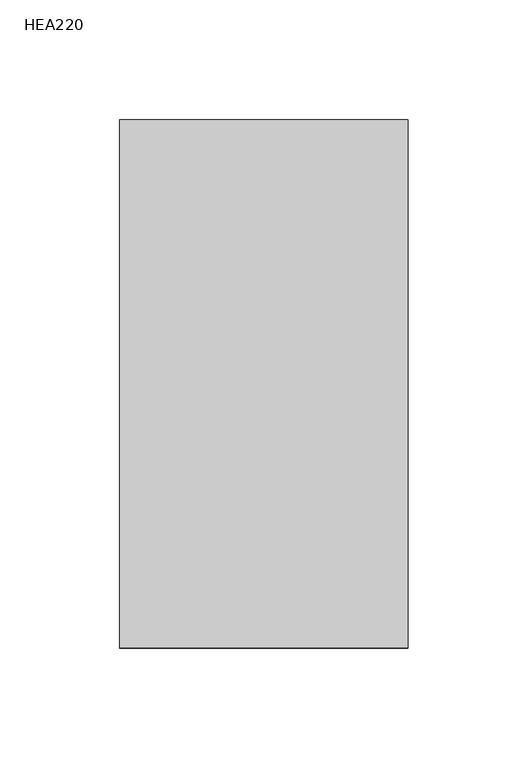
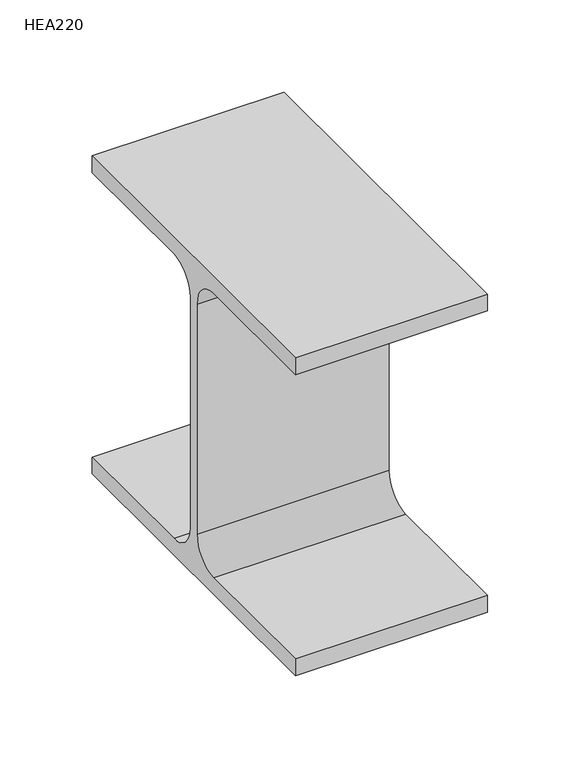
"""IFC4 building model written with IfcOpenShell, lengths in millimetres: beam geometry, HE-A : HEA220."""

from ifc_helpers import new_model, si_unit, point, frame, frame_2d, origin, place, context, project, spatial, polyline, circle_curve, trimmed, segment, composite_curve, outline, extrude, source, transform, mapped, element, save


def hea220_d5b03f22(model_context):
    return source(origin(), model_context, "Body", "SweptSolid", [
        extrude(outline(composite_curve([segment(polyline([(110.0, -94.0), (110.0, -105.0), (-110.0, -105.0), (-110.0, -94.0), (-21.5, -94.0)]), True, "CONTINUOUS"), segment(trimmed(circle_curve(frame_2d((-21.5, -76.0)), 18.0), [point((-21.5, -94.0))], [point((-3.5, -76.0))], True, "CARTESIAN"), True, "CONTINUOUS"), segment(polyline([(-3.5, -76.0), (-3.5, 76.0)]), True, "CONTINUOUS"), segment(trimmed(circle_curve(frame_2d((-21.5, 76.0)), 18.0), [point((-3.5, 76.0))], [point((-21.5, 94.0))], True, "CARTESIAN"), True, "CONTINUOUS"), segment(polyline([(-21.5, 94.0), (-110.0, 94.0), (-110.0, 105.0), (110.0, 105.0), (110.0, 94.0), (21.5, 94.0)]), True, "CONTINUOUS"), segment(trimmed(circle_curve(frame_2d((21.5, 76.0)), 18.0), [point((21.5, 94.0))], [point((3.5, 76.0))], True, "CARTESIAN"), True, "CONTINUOUS"), segment(polyline([(3.5, 76.0), (3.5, -76.0)]), True, "CONTINUOUS"), segment(trimmed(circle_curve(frame_2d((21.5, -76.0)), 18.0), [point((3.5, -76.0))], [point((21.5, -94.0))], True, "CARTESIAN"), True, "CONTINUOUS"), segment(polyline([(21.5, -94.0), (110.0, -94.0)]), True, "CONTINUOUS")], self_intersect=False)), frame((-60.05, 0.0, 0.0), z_axis=(1.0, 0.0, 0.0), x_axis=(0.0, 1.0, 0.0)), (0.0, 0.0, 1.0), 120.1),
    ])


if __name__ == "__main__":
    model = new_model("IFC4")
    model_context = context("Model", 3, world=origin())
    ifc_project = project(units=[si_unit("LENGTHUNIT", "METRE", prefix="MILLI")], contexts=[model_context])
    site = spatial("IfcSite", under=ifc_project)
    building = spatial("IfcBuilding", under=site)
    placement = place(None, origin())
    hea220_shape = hea220_d5b03f22(model_context)
    element("IfcBeam", 1, ObjectType="HE-A : HEA220", at=placement, inside=building, context=model_context, shape_type="MappedRepresentation", body=[
        mapped(hea220_shape, transform((0.0, 0.0, 0.0), x_axis=(1.0, 0.0, 0.0), y_axis=(0.0, 1.0, 0.0), z_axis=(0.0, 0.0, 1.0))),
    ])
    save(model, "model.ifc")
